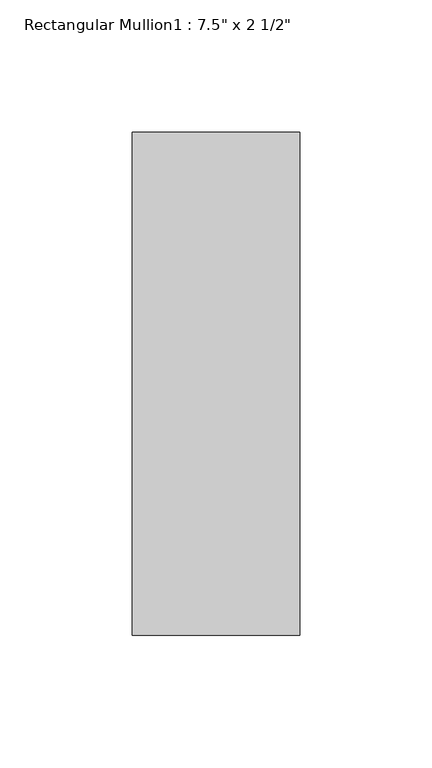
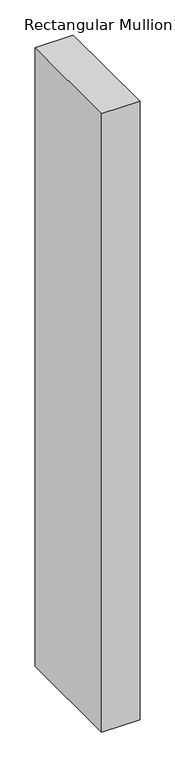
"""IFC4 building model written with IfcOpenShell, lengths in millimetres: member geometry."""

from ifc_helpers import new_model, si_unit, frame, origin, place, context, project, spatial, polyline, outline, extrude, source, transform, mapped, element, save


def member_b8b6baf3(model_context):
    return source(origin(), model_context, "Body", "SweptSolid", [
        extrude(outline(polyline([(-63.5, -165.1), (-63.5, 25.4), (0.0, 25.4), (0.0, -165.1), (-63.5, -165.1)])), frame((0.0, 0.0, -1079.5000024), z_axis=(0.0, 0.0, 1.0), x_axis=(1.0, 0.0, 0.0)), (0.0, 0.0, 1.0), 1079.5000024),
    ])


if __name__ == "__main__":
    model = new_model("IFC4")
    model_context = context("Model", 3, world=origin())
    ifc_project = project(units=[si_unit("LENGTHUNIT", "METRE", prefix="MILLI")], contexts=[model_context])
    site = spatial("IfcSite", under=ifc_project)
    building = spatial("IfcBuilding", under=site)
    placement = place(None, origin())
    member_shape = member_b8b6baf3(model_context)
    element("IfcMember", 1, ObjectType="Rectangular Mullion1 : 7.5\" x 2 1/2\"", at=placement, inside=building, context=model_context, shape_type="MappedRepresentation", body=[
        mapped(member_shape, transform((0.0, 0.0, 0.0), x_axis=(1.0, 0.0, 0.0), y_axis=(0.0, 1.0, 0.0), z_axis=(0.0, 0.0, 1.0))),
    ])
    save(model, "model.ifc")
